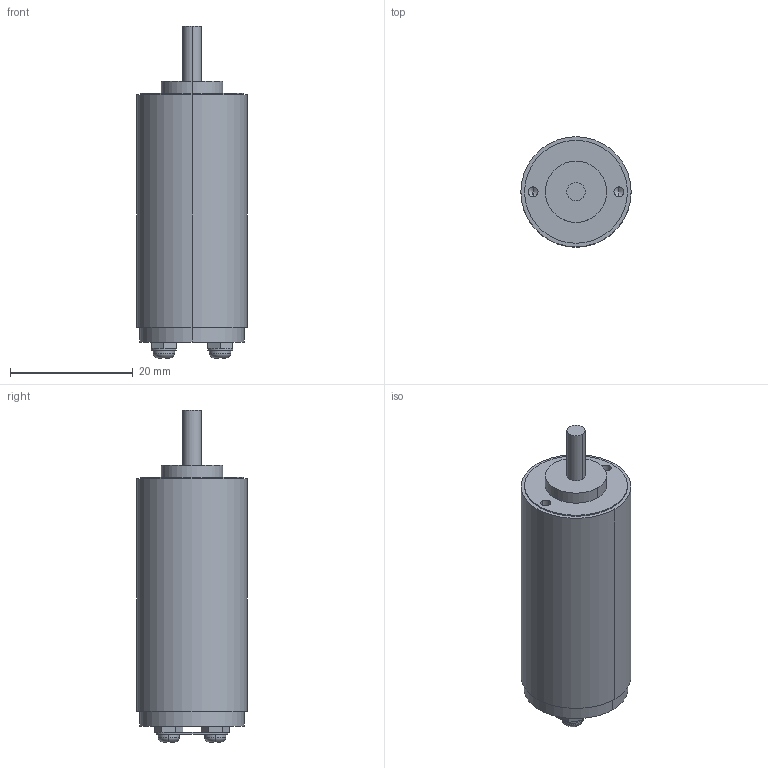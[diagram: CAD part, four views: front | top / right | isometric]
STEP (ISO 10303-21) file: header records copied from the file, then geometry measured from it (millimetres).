
FILE_DESCRIPTION (( 'STEP AP214' ), '1' );
FILE_NAME ('NC-1841.STEP', '2024-11-12T07:12:26', ( '' ), ( '' ), 'SwSTEP 2.0', 'SolidWorks 2024', '' );
FILE_SCHEMA (( 'AUTOMOTIVE_DESIGN' ));
Length unit declared in the file: millimetre
Products named in the file (1): NC-1841
Bounding box: 18 x 18 x 54.2 mm (x, y, z)
Volume: 10538 mm3; surface area: 3184.3 mm2
Topology: 1 solids, 1 shells, 104 faces, 262 edges, 166 vertices
Faces by surface type: plane 70, cylinder 26, torus 4, cone 4
Entity records: 3141 total; most frequent: CARTESIAN_POINT 621, DIRECTION 516, ORIENTED_EDGE 516, EDGE_CURVE 258, AXIS2_PLACEMENT_3D 181, VERTEX_POINT 166, LINE 154, VECTOR 154
